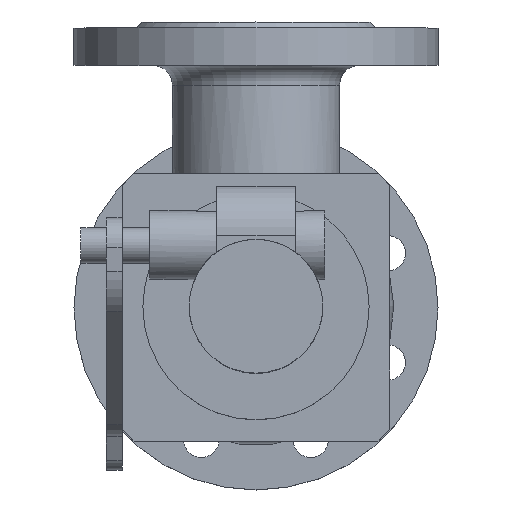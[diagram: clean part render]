
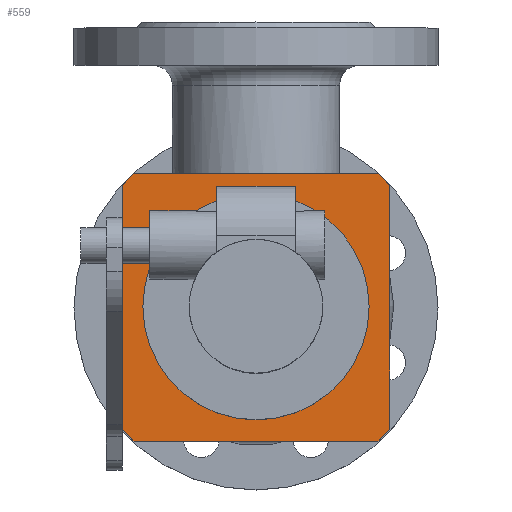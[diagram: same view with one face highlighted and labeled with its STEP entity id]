
A CAD part, top view. The second image highlights one B-rep face of the part: STEP entity #559.
In plain terms, the highlighted planar face has unit normal (0, 0, 1).
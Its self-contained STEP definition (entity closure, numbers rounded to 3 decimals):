
#559=ADVANCED_FACE('',(#1639,#1641),#1643,.T.);
#1639=FACE_BOUND('',#1640,.T.);
#1640=EDGE_LOOP('',(#2467,#2468,#2469,#2470,#2471,#2472,#2473,#2474));
#1641=FACE_BOUND('',#1642,.T.);
#1642=EDGE_LOOP('',(#2475));
#1643=PLANE('',#1644);
#1644=AXIS2_PLACEMENT_3D('',#1645,#1646,#1647);
#1645=CARTESIAN_POINT('',(0.,0.,221.));
#1646=DIRECTION('',(0.,0.,1.));
#1647=DIRECTION('',(0.,1.,0.));
#2467=ORIENTED_EDGE('',*,*,#2944,.F.);
#2468=ORIENTED_EDGE('',*,*,#2958,.T.);
#2469=ORIENTED_EDGE('',*,*,#2956,.F.);
#2470=ORIENTED_EDGE('',*,*,#2955,.T.);
#2471=ORIENTED_EDGE('',*,*,#2952,.F.);
#2472=ORIENTED_EDGE('',*,*,#2950,.T.);
#2473=ORIENTED_EDGE('',*,*,#2948,.F.);
#2474=ORIENTED_EDGE('',*,*,#2946,.T.);
#2475=ORIENTED_EDGE('',*,*,#2961,.T.);
#2944=EDGE_CURVE('',#3326,#3328,#3329,.F.);
#2946=EDGE_CURVE('',#3331,#3328,#3332,.T.);
#2948=EDGE_CURVE('',#3331,#3334,#3335,.F.);
#2950=EDGE_CURVE('',#3337,#3334,#3338,.T.);
#2952=EDGE_CURVE('',#3337,#3340,#3341,.F.);
#2955=EDGE_CURVE('',#3343,#3340,#3345,.T.);
#2956=EDGE_CURVE('',#3343,#3346,#3347,.F.);
#2958=EDGE_CURVE('',#3326,#3346,#3349,.T.);
#2961=EDGE_CURVE('',#3354,#3354,#3355,.T.);
#3326=VERTEX_POINT('',#4415);
#3328=VERTEX_POINT('',#4419);
#3329=LINE('',#4420,#4421);
#3331=VERTEX_POINT('',#4426);
#3332=LINE('',#4427,#4428);
#3334=VERTEX_POINT('',#4433);
#3335=LINE('',#4434,#4435);
#3337=VERTEX_POINT('',#4440);
#3338=LINE('',#4441,#4442);
#3340=VERTEX_POINT('',#4447);
#3341=LINE('',#4448,#4449);
#3343=VERTEX_POINT('',#4454);
#3345=LINE('',#4458,#4459);
#3346=VERTEX_POINT('',#4461);
#3347=LINE('',#4462,#4463);
#3349=LINE('',#4468,#4469);
#3354=VERTEX_POINT('',#4481);
#3355=CIRCLE('',#4482,40.);
#4415=CARTESIAN_POINT('',(-62.,-68.,221.));
#4419=CARTESIAN_POINT('',(-68.,-62.,221.));
#4420=CARTESIAN_POINT('',(-68.,-62.,221.));
#4421=VECTOR('',#4422,1.);
#4422=DIRECTION('',(0.707,-0.707,0.));
#4426=CARTESIAN_POINT('',(-68.,62.,221.));
#4427=CARTESIAN_POINT('',(-68.,62.,221.));
#4428=VECTOR('',#4429,1.);
#4429=DIRECTION('',(0.,-1.,0.));
#4433=CARTESIAN_POINT('',(-62.,68.,221.));
#4434=CARTESIAN_POINT('',(-62.,68.,221.));
#4435=VECTOR('',#4436,1.);
#4436=DIRECTION('',(-0.707,-0.707,0.));
#4440=CARTESIAN_POINT('',(62.,68.,221.));
#4441=CARTESIAN_POINT('',(62.,68.,221.));
#4442=VECTOR('',#4443,1.);
#4443=DIRECTION('',(-1.,0.,0.));
#4447=CARTESIAN_POINT('',(68.,62.,221.));
#4448=CARTESIAN_POINT('',(68.,62.,221.));
#4449=VECTOR('',#4450,1.);
#4450=DIRECTION('',(-0.707,0.707,0.));
#4454=CARTESIAN_POINT('',(68.,-62.,221.));
#4458=CARTESIAN_POINT('',(68.,-62.,221.));
#4459=VECTOR('',#4460,1.);
#4460=DIRECTION('',(0.,1.,0.));
#4461=CARTESIAN_POINT('',(62.,-68.,221.));
#4462=CARTESIAN_POINT('',(62.,-68.,221.));
#4463=VECTOR('',#4464,1.);
#4464=DIRECTION('',(0.707,0.707,0.));
#4468=CARTESIAN_POINT('',(-62.,-68.,221.));
#4469=VECTOR('',#4470,1.);
#4470=DIRECTION('',(1.,0.,0.));
#4481=CARTESIAN_POINT('',(0.,40.,221.));
#4482=AXIS2_PLACEMENT_3D('',#4483,#4484,#4485);
#4483=CARTESIAN_POINT('',(0.,0.,221.));
#4484=DIRECTION('',(0.,0.,-1.));
#4485=DIRECTION('',(0.,1.,0.));
